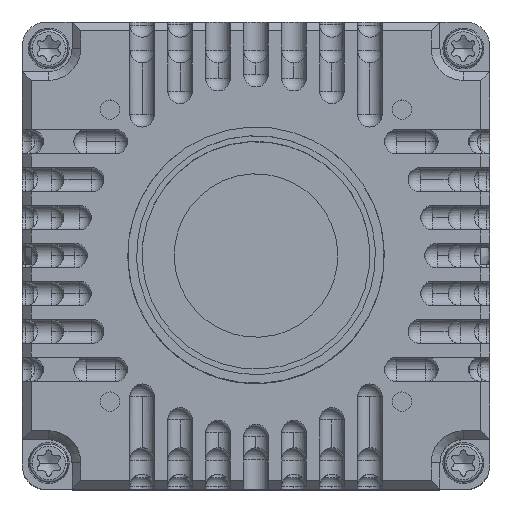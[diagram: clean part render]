
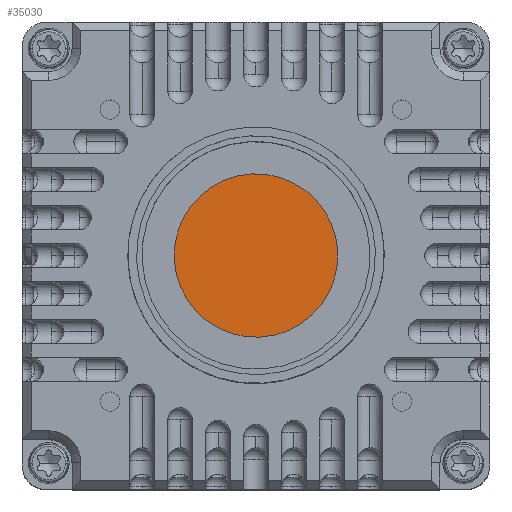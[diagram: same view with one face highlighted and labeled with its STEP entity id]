
A CAD part, top view. The second image highlights one B-rep face of the part: STEP entity #35030.
In plain terms, the highlighted planar face has unit normal (0, 0, 1).
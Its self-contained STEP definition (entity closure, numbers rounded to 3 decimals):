
#3591 = AXIS2_PLACEMENT_3D ( 'NONE', #128547, #128264, #128096 ) ;
#6418 = EDGE_CURVE ( 'NONE', #96133, #12951, #65604, .T. ) ;
#9418 = PLANE ( 'NONE',  #134237 ) ;
#12951 = VERTEX_POINT ( 'NONE', #89187 ) ;
#24911 = EDGE_CURVE ( 'NONE', #12951, #96133, #87279, .T. ) ;
#30498 = DIRECTION ( 'NONE',  ( 0., 0., -1. ) ) ;
#32465 = AXIS2_PLACEMENT_3D ( 'NONE', #56217, #56184, #55898 ) ;
#35030 = ADVANCED_FACE ( 'NONE', ( #70058 ), #9418, .F. ) ;
#38950 = ORIENTED_EDGE ( 'NONE', *, *, #24911, .F. ) ;
#45132 = CARTESIAN_POINT ( 'NONE',  ( -20.164, 2.851, 44.6 ) ) ;
#55898 = DIRECTION ( 'NONE',  ( 0.118, 0.993, 0. ) ) ;
#56184 = DIRECTION ( 'NONE',  ( 0., 0., -1. ) ) ;
#56217 = CARTESIAN_POINT ( 'NONE',  ( -18.386, 17.846, 44.6 ) ) ;
#65604 = CIRCLE ( 'NONE', #32465, 15.1 ) ;
#70058 = FACE_OUTER_BOUND ( 'NONE', #124510, .T. ) ;
#76172 = ORIENTED_EDGE ( 'NONE', *, *, #6418, .F. ) ;
#87279 = CIRCLE ( 'NONE', #3591, 15.1 ) ;
#89187 = CARTESIAN_POINT ( 'NONE',  ( -16.607, 32.841, 44.6 ) ) ;
#92885 = CARTESIAN_POINT ( 'NONE',  ( -18.386, 17.846, 44.6 ) ) ;
#96133 = VERTEX_POINT ( 'NONE', #45132 ) ;
#103343 = DIRECTION ( 'NONE',  ( 0., 1., 0. ) ) ;
#124510 = EDGE_LOOP ( 'NONE', ( #38950, #76172 ) ) ;
#128096 = DIRECTION ( 'NONE',  ( 0.118, 0.993, 0. ) ) ;
#128264 = DIRECTION ( 'NONE',  ( 0., 0., -1. ) ) ;
#128547 = CARTESIAN_POINT ( 'NONE',  ( -18.386, 17.846, 44.6 ) ) ;
#134237 = AXIS2_PLACEMENT_3D ( 'NONE', #92885, #30498, #103343 ) ;
